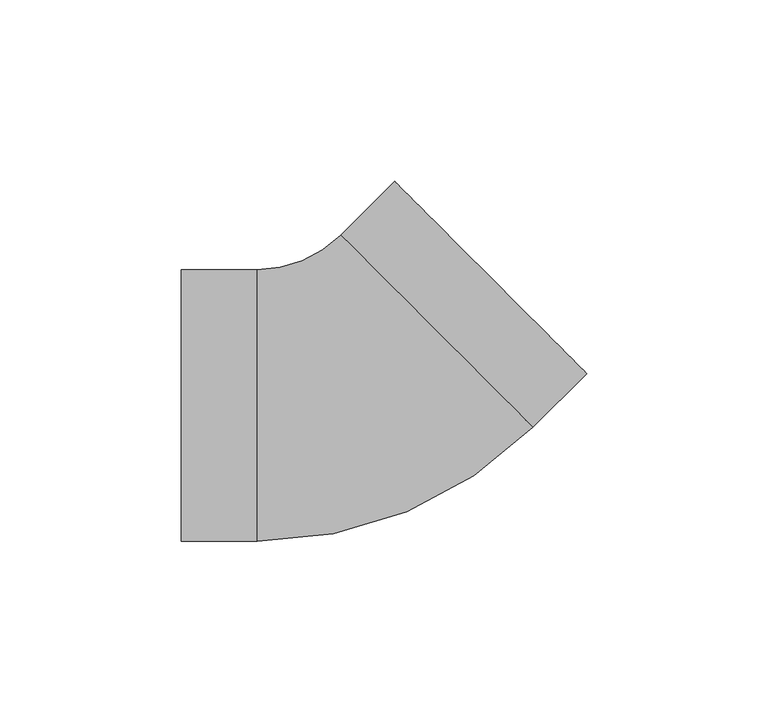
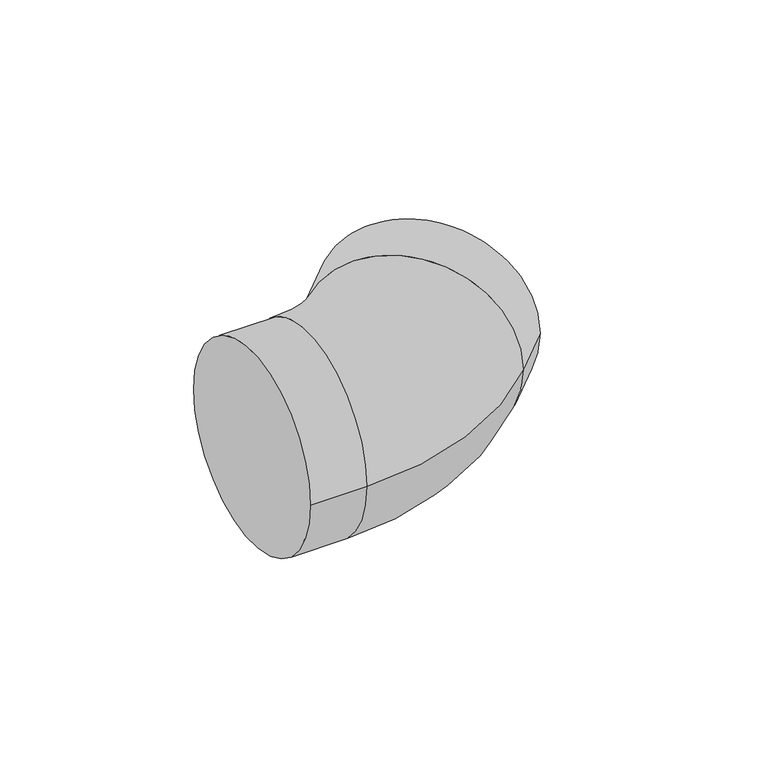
"""IFC4 building model written with IfcOpenShell, lengths in millimetres: pipe fitting geometry, NLRS_52_PIF_UN_PE bocht_PRO_101543_geb : DN40-150 / ø40-160 - OD."""

from ifc_helpers import new_model, si_unit, point, frame, origin, place, context, project, spatial, circle_curve, ellipse_curve, trimmed, source, transform, mapped, element, save
from ifc_brep_helpers import plane_surface, cylinder_surface, revolved_surface, advanced_brep


def pipe_fitting_a508771a(model_context):
    return source(origin(), model_context, "Body", "AdvancedBrep", [
        advanced_brep(
        [(-6.0104076, 47.0226009, 0.0), (-29.0, 37.5, 0.0), (-29.0, -37.5, 0.0), (47.0226009, -6.0104076, 0.0), (-50.0, -37.5, 0.0), (-50.0, 37.5, 0.0), (61.8718434, 8.8388348, 0.0), (8.8388348, 61.8718434, 0.0)],
        [
            (0, 1, circle_curve(frame((-29.0, 70.0121933, 0.0), z_axis=(0.0, 0.0, -1.0), x_axis=(0.0, -1.0, 0.0)), 32.5121933)),
            (1, 2, circle_curve(frame((-29.0, 0.0, 0.0), z_axis=(1.0, 0.0, 0.0), x_axis=(0.0, 1.0, 0.0)), 37.5)),
            (2, 3, circle_curve(frame((-29.0, 70.0121933, 0.0), z_axis=(0.0, 0.0, 1.0), x_axis=(0.0, -1.0, 0.0)), 107.5121933)),
            (3, 0, circle_curve(frame((20.5060967, 20.5060967, 0.0), z_axis=(-0.7071067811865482, -0.7071067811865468, 0.0), x_axis=(-0.7071067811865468, 0.7071067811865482, 0.0)), 37.5)),
            (2, 1, circle_curve(frame((-29.0, 0.0, 0.0), z_axis=(1.0, 0.0, 0.0), x_axis=(0.0, 1.0, 0.0)), 37.5)),
            (0, 3, circle_curve(frame((20.5060967, 20.5060967, 0.0), z_axis=(-0.707106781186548, -0.7071067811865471, 0.0), x_axis=(-0.7071067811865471, 0.707106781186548, 0.0)), 37.5)),
            (4, 5, circle_curve(frame((-50.0, 0.0, 0.0), z_axis=(-1.0, 0.0, 0.0), x_axis=(0.0, 1.0, 0.0)), 37.5)),
            (5, 4, circle_curve(frame((-50.0, 0.0, 0.0), z_axis=(-1.0, 0.0, 0.0), x_axis=(0.0, 1.0, 0.0)), 37.5)),
            (4, 2),
            (1, 5),
            (6, 7, circle_curve(frame((35.3553391, 35.3553391, 0.0), z_axis=(0.7071067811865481, 0.7071067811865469, 0.0), x_axis=(-0.7071067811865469, 0.7071067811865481, 0.0)), 37.5)),
            (7, 6, circle_curve(frame((35.3553391, 35.3553391, 0.0), z_axis=(0.7071067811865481, 0.7071067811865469, 0.0), x_axis=(-0.7071067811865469, 0.7071067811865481, 0.0)), 37.5)),
            (3, 6),
            (7, 0),
        ],
        [
            revolved_surface(trimmed(ellipse_curve(frame((-29.0, 0.0, 0.0), z_axis=(-1.0, 0.0, 0.0), x_axis=(0.0, 1.0, 0.0)), 37.5, 37.5), [point((-29.0, -37.5, 0.0))], [point((-29.0, 37.5, 0.0))], True, "CARTESIAN"), (-29.0, 70.0121933, 0.0), (0.0, 0.0, 1.0)),
            revolved_surface(trimmed(ellipse_curve(frame((-29.0, 0.0, 0.0), z_axis=(-1.0, 0.0, 0.0), x_axis=(0.0, 1.0, 0.0)), 37.5, 37.5), [point((-29.0, 37.5, 0.0))], [point((-29.0, -37.5, 0.0))], True, "CARTESIAN"), (-29.0, 70.0121933, 0.0), (0.0, 0.0, 1.0)),
            plane_surface(frame((-50.0, 0.0, 0.0), z_axis=(-1.0, 0.0, 0.0), x_axis=(0.0, 0.0, 1.0))),
            cylinder_surface(frame((-50.0, 0.0, 0.0), z_axis=(-1.0, 0.0, 0.0), x_axis=(0.0, 1.0, 0.0)), 37.5),
            plane_surface(frame((35.3553391, 35.3553391, 0.0), z_axis=(0.7071067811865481, 0.7071067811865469, 0.0), x_axis=(0.0, 0.0, 1.0))),
            cylinder_surface(frame((20.5060967, 20.5060967, 0.0), z_axis=(-0.7071067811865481, -0.7071067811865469, 0.0), x_axis=(-0.7071067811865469, 0.7071067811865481, 0.0)), 37.5),
        ],
        [
            (0, [[1, 2, 3, 4]]),
            (1, [[-3, 5, -1, 6]]),
            (2, [[7, 8]]),
            (3, [[-7, 9, -2, 10]]),
            (3, [[-8, -10, -5, -9]]),
            (4, [[11, 12]]),
            (5, [[-4, 13, -12, 14]]),
            (5, [[-6, -14, -11, -13]]),
        ],
    ),
    ])


if __name__ == "__main__":
    model = new_model("IFC4")
    model_context = context("Model", 3, world=origin())
    ifc_project = project(units=[si_unit("LENGTHUNIT", "METRE", prefix="MILLI")], contexts=[model_context])
    site = spatial("IfcSite", under=ifc_project)
    building = spatial("IfcBuilding", under=site)
    placement = place(None, origin())
    pipe_fitting_shape = pipe_fitting_a508771a(model_context)
    element("IfcPipeFitting", 1, ObjectType="NLRS_52_PIF_UN_PE bocht_PRO_101543_geb : DN40-150 / ø40-160 - OD", at=placement, inside=building, context=model_context, shape_type="MappedRepresentation", body=[
        mapped(pipe_fitting_shape, transform((0.0, 0.0, 0.0), x_axis=(1.0, 0.0, 0.0), y_axis=(0.0, 1.0, 0.0), z_axis=(0.0, 0.0, 1.0))),
    ])
    save(model, "model.ifc")
